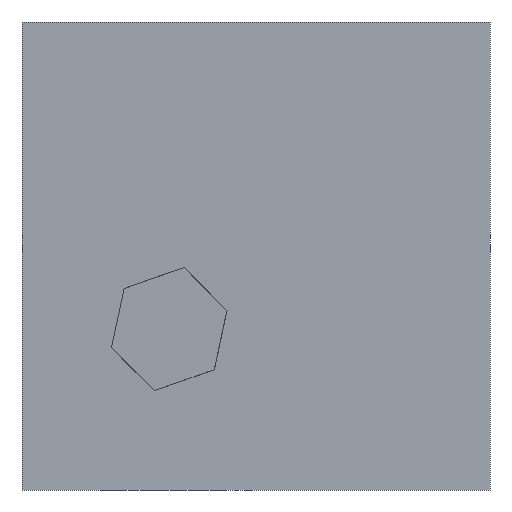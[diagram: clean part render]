
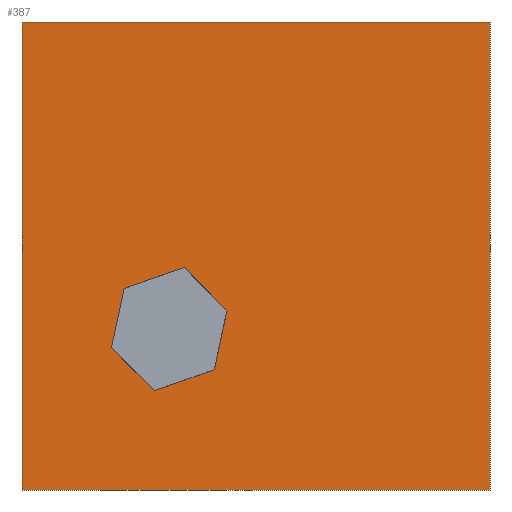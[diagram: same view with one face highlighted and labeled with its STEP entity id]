
A CAD part, front view. The second image highlights one B-rep face of the part: STEP entity #387.
In plain terms, the highlighted planar face has unit normal (0, -1, 0).
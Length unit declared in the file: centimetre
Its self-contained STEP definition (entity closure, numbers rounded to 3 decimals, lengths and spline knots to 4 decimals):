
#9 = ORIENTED_EDGE ( 'NONE', *, *, #790, .T. ) ;
#13 = VERTEX_POINT ( 'NONE', #178 ) ;
#16 = EDGE_LOOP ( 'NONE', ( #9, #382, #416, #287 ) ) ;
#29 = LINE ( 'NONE', #203, #115 ) ;
#50 = DIRECTION ( 'NONE',  ( 0.208, 0., 0.978 ) ) ;
#65 = CARTESIAN_POINT ( 'NONE',  ( 346.4462, 0., 475.525 ) ) ;
#69 = DIRECTION ( 'NONE',  ( -0.707, 0., 0.707 ) ) ;
#79 = VECTOR ( 'NONE', #482, 100. ) ;
#96 = DIRECTION ( 'NONE',  ( 0., 1., 0. ) ) ;
#99 = VECTOR ( 'NONE', #529, 100. ) ;
#103 = DIRECTION ( 'NONE',  ( 0., 0., -1. ) ) ;
#110 = ORIENTED_EDGE ( 'NONE', *, *, #739, .F. ) ;
#111 = EDGE_CURVE ( 'NONE', #766, #748, #1048, .T. ) ;
#115 = VECTOR ( 'NONE', #103, 100. ) ;
#141 = CARTESIAN_POINT ( 'NONE',  ( 411.0252, 0., 256.9962 ) ) ;
#142 = CARTESIAN_POINT ( 'NONE',  ( 218.2704, 0., 430.7459 ) ) ;
#178 = CARTESIAN_POINT ( 'NONE',  ( 282.8494, 0., 212.2171 ) ) ;
#179 = FACE_BOUND ( 'NONE', #279, .T. ) ;
#187 = ORIENTED_EDGE ( 'NONE', *, *, #111, .F. ) ;
#198 = FACE_OUTER_BOUND ( 'NONE', #16, .T. ) ;
#203 = CARTESIAN_POINT ( 'NONE',  ( 0., 0., 1000. ) ) ;
#219 = DIRECTION ( 'NONE',  ( -0.208, 0., -0.978 ) ) ;
#247 = DIRECTION ( 'NONE',  ( -0.944, 0., -0.33 ) ) ;
#249 = VERTEX_POINT ( 'NONE', #479 ) ;
#257 = VECTOR ( 'NONE', #392, 100. ) ;
#264 = VERTEX_POINT ( 'NONE', #316 ) ;
#275 = VECTOR ( 'NONE', #50, 100. ) ;
#279 = EDGE_LOOP ( 'NONE', ( #334, #824, #979, #926, #110, #187 ) ) ;
#286 = CARTESIAN_POINT ( 'NONE',  ( 191.2232, 0., 303.8432 ) ) ;
#287 = ORIENTED_EDGE ( 'NONE', *, *, #1034, .T. ) ;
#310 = LINE ( 'NONE', #959, #79 ) ;
#316 = CARTESIAN_POINT ( 'NONE',  ( 438.0723, 0., 383.8989 ) ) ;
#330 = AXIS2_PLACEMENT_3D ( 'NONE', #679, #96, #429 ) ;
#334 = ORIENTED_EDGE ( 'NONE', *, *, #705, .F. ) ;
#352 = CARTESIAN_POINT ( 'NONE',  ( 1000., 0., 0. ) ) ;
#382 = ORIENTED_EDGE ( 'NONE', *, *, #649, .F. ) ;
#383 = CARTESIAN_POINT ( 'NONE',  ( 1000., 0., 1000. ) ) ;
#387 = ADVANCED_FACE ( 'NONE', ( #179, #198 ), #505, .F. ) ;
#392 = DIRECTION ( 'NONE',  ( 0.944, 0., 0.33 ) ) ;
#412 = CARTESIAN_POINT ( 'NONE',  ( 0., 0., 0. ) ) ;
#416 = ORIENTED_EDGE ( 'NONE', *, *, #618, .F. ) ;
#422 = VERTEX_POINT ( 'NONE', #412 ) ;
#429 = DIRECTION ( 'NONE',  ( 0., 0., 1. ) ) ;
#434 = VECTOR ( 'NONE', #247, 100. ) ;
#479 = CARTESIAN_POINT ( 'NONE',  ( 191.2232, 0., 303.8432 ) ) ;
#482 = DIRECTION ( 'NONE',  ( 1., 0., 0. ) ) ;
#505 = PLANE ( 'NONE',  #330 ) ;
#510 = VERTEX_POINT ( 'NONE', #352 ) ;
#529 = DIRECTION ( 'NONE',  ( 1., 0., 0. ) ) ;
#551 = CARTESIAN_POINT ( 'NONE',  ( 218.2704, 0., 430.7459 ) ) ;
#592 = VERTEX_POINT ( 'NONE', #141 ) ;
#612 = CARTESIAN_POINT ( 'NONE',  ( 0., 0., 1000. ) ) ;
#618 = EDGE_CURVE ( 'NONE', #674, #818, #1021, .T. ) ;
#649 = EDGE_CURVE ( 'NONE', #818, #510, #1026, .T. ) ;
#654 = EDGE_CURVE ( 'NONE', #13, #592, #861, .T. ) ;
#674 = VERTEX_POINT ( 'NONE', #958 ) ;
#679 = CARTESIAN_POINT ( 'NONE',  ( 0., 0., 1000. ) ) ;
#702 = CARTESIAN_POINT ( 'NONE',  ( 1000., 0., 1000. ) ) ;
#705 = EDGE_CURVE ( 'NONE', #264, #766, #722, .T. ) ;
#715 = VECTOR ( 'NONE', #936, 100. ) ;
#722 = LINE ( 'NONE', #1039, #965 ) ;
#723 = LINE ( 'NONE', #871, #275 ) ;
#739 = EDGE_CURVE ( 'NONE', #748, #249, #875, .T. ) ;
#748 = VERTEX_POINT ( 'NONE', #142 ) ;
#764 = LINE ( 'NONE', #286, #1051 ) ;
#766 = VERTEX_POINT ( 'NONE', #65 ) ;
#790 = EDGE_CURVE ( 'NONE', #422, #510, #310, .T. ) ;
#811 = EDGE_CURVE ( 'NONE', #592, #264, #723, .T. ) ;
#818 = VERTEX_POINT ( 'NONE', #383 ) ;
#824 = ORIENTED_EDGE ( 'NONE', *, *, #811, .F. ) ;
#849 = DIRECTION ( 'NONE',  ( 0.707, 0., -0.707 ) ) ;
#861 = LINE ( 'NONE', #939, #257 ) ;
#871 = CARTESIAN_POINT ( 'NONE',  ( 411.0252, 0., 256.9962 ) ) ;
#875 = LINE ( 'NONE', #551, #899 ) ;
#891 = CARTESIAN_POINT ( 'NONE',  ( 346.4462, 0., 475.525 ) ) ;
#899 = VECTOR ( 'NONE', #219, 100. ) ;
#901 = EDGE_CURVE ( 'NONE', #249, #13, #764, .T. ) ;
#926 = ORIENTED_EDGE ( 'NONE', *, *, #901, .F. ) ;
#936 = DIRECTION ( 'NONE',  ( 0., 0., -1. ) ) ;
#939 = CARTESIAN_POINT ( 'NONE',  ( 282.8494, 0., 212.2171 ) ) ;
#958 = CARTESIAN_POINT ( 'NONE',  ( 0., 0., 1000. ) ) ;
#959 = CARTESIAN_POINT ( 'NONE',  ( 0., 0., 0. ) ) ;
#965 = VECTOR ( 'NONE', #69, 100. ) ;
#979 = ORIENTED_EDGE ( 'NONE', *, *, #654, .F. ) ;
#1021 = LINE ( 'NONE', #612, #99 ) ;
#1026 = LINE ( 'NONE', #702, #715 ) ;
#1034 = EDGE_CURVE ( 'NONE', #674, #422, #29, .T. ) ;
#1039 = CARTESIAN_POINT ( 'NONE',  ( 438.0723, 0., 383.8989 ) ) ;
#1048 = LINE ( 'NONE', #891, #434 ) ;
#1051 = VECTOR ( 'NONE', #849, 100. ) ;
